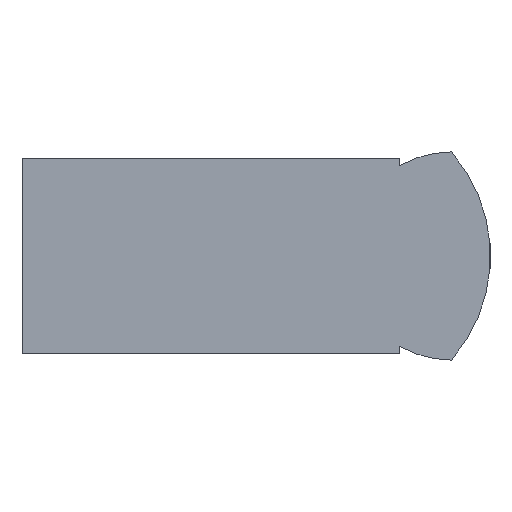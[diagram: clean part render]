
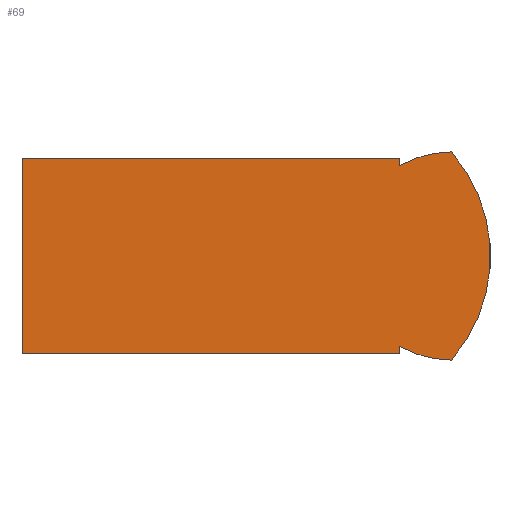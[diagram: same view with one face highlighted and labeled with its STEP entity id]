
A CAD part, left-side view. The second image highlights one B-rep face of the part: STEP entity #69.
In plain terms, the highlighted planar face has unit normal (-1, 0, 0).
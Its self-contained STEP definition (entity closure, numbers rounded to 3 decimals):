
#69 = ADVANCED_FACE( '', ( #142 ), #143, .F. );
#142 = FACE_OUTER_BOUND( '', #217, .T. );
#143 = PLANE( '', #218 );
#217 = EDGE_LOOP( '', ( #339, #340, #341, #342, #343, #344, #345, #346 ) );
#218 = AXIS2_PLACEMENT_3D( '', #347, #348, #349 );
#339 = ORIENTED_EDGE( '', *, *, #467, .F. );
#340 = ORIENTED_EDGE( '', *, *, #468, .T. );
#341 = ORIENTED_EDGE( '', *, *, #469, .T. );
#342 = ORIENTED_EDGE( '', *, *, #470, .F. );
#343 = ORIENTED_EDGE( '', *, *, #457, .F. );
#344 = ORIENTED_EDGE( '', *, *, #437, .T. );
#345 = ORIENTED_EDGE( '', *, *, #471, .F. );
#346 = ORIENTED_EDGE( '', *, *, #472, .F. );
#347 = CARTESIAN_POINT( '', ( -6., -28.416, 0. ) );
#348 = DIRECTION( '', ( 1., 0., 0. ) );
#349 = DIRECTION( '', ( 0., 0., -1. ) );
#437 = EDGE_CURVE( '', #515, #513, #516, .T. );
#457 = EDGE_CURVE( '', #515, #544, #546, .T. );
#467 = EDGE_CURVE( '', #559, #560, #561, .T. );
#468 = EDGE_CURVE( '', #559, #562, #563, .T. );
#469 = EDGE_CURVE( '', #562, #564, #565, .T. );
#470 = EDGE_CURVE( '', #544, #564, #566, .T. );
#471 = EDGE_CURVE( '', #567, #513, #568, .T. );
#472 = EDGE_CURVE( '', #560, #567, #569, .T. );
#513 = VERTEX_POINT( '', #621 );
#515 = VERTEX_POINT( '', #624 );
#516 = LINE( '', #625, #626 );
#544 = VERTEX_POINT( '', #664 );
#546 = LINE( '', #667, #668 );
#559 = VERTEX_POINT( '', #682 );
#560 = VERTEX_POINT( '', #683 );
#561 = CIRCLE( '', #684, 8. );
#562 = VERTEX_POINT( '', #685 );
#563 = LINE( '', #686, #687 );
#564 = VERTEX_POINT( '', #688 );
#565 = LINE( '', #689, #690 );
#566 = LINE( '', #691, #692 );
#567 = VERTEX_POINT( '', #693 );
#568 = CIRCLE( '', #694, 8. );
#569 = CIRCLE( '', #695, 12.167 );
#621 = CARTESIAN_POINT( '', ( -6., -29., -6.928 ) );
#624 = CARTESIAN_POINT( '', ( -6., -29., -7.5 ) );
#625 = CARTESIAN_POINT( '', ( -6., -29., -7.5 ) );
#626 = VECTOR( '', #735, 1000. );
#664 = CARTESIAN_POINT( '', ( -6., 0., -7.5 ) );
#667 = CARTESIAN_POINT( '', ( -6., -29., -7.5 ) );
#668 = VECTOR( '', #756, 1000. );
#682 = CARTESIAN_POINT( '', ( -6., -29., 6.928 ) );
#683 = CARTESIAN_POINT( '', ( -6., -33., 8. ) );
#684 = AXIS2_PLACEMENT_3D( '', #767, #768, #769 );
#685 = CARTESIAN_POINT( '', ( -6., -29., 7.5 ) );
#686 = CARTESIAN_POINT( '', ( -6., -29., -7.5 ) );
#687 = VECTOR( '', #770, 1000. );
#688 = CARTESIAN_POINT( '', ( -6., 0., 7.5 ) );
#689 = CARTESIAN_POINT( '', ( -6., -29., 7.5 ) );
#690 = VECTOR( '', #771, 1000. );
#691 = CARTESIAN_POINT( '', ( -6., 0., -7.5 ) );
#692 = VECTOR( '', #772, 1000. );
#693 = CARTESIAN_POINT( '', ( -6., -33., -8. ) );
#694 = AXIS2_PLACEMENT_3D( '', #773, #774, #775 );
#695 = AXIS2_PLACEMENT_3D( '', #776, #777, #778 );
#735 = DIRECTION( '', ( 0., 0., 1. ) );
#756 = DIRECTION( '', ( 0., 1., 0. ) );
#767 = CARTESIAN_POINT( '', ( -6., -33., 0. ) );
#768 = DIRECTION( '', ( 1., 0., 0. ) );
#769 = DIRECTION( '', ( 0., 0., -1. ) );
#770 = DIRECTION( '', ( 0., 0., 1. ) );
#771 = DIRECTION( '', ( 0., 1., 0. ) );
#772 = DIRECTION( '', ( 0., 0., 1. ) );
#773 = CARTESIAN_POINT( '', ( -6., -33., 0. ) );
#774 = DIRECTION( '', ( 1., 0., 0. ) );
#775 = DIRECTION( '', ( 0., 0., -1. ) );
#776 = CARTESIAN_POINT( '', ( -6., -23.833, 0. ) );
#777 = DIRECTION( '', ( 1., 0., 0. ) );
#778 = DIRECTION( '', ( 0., 0., -1. ) );
